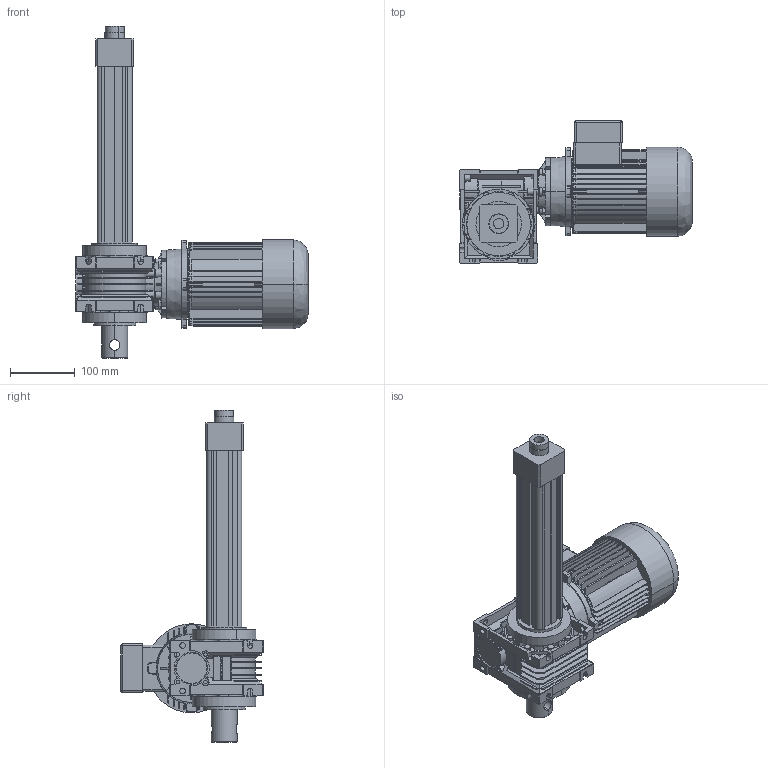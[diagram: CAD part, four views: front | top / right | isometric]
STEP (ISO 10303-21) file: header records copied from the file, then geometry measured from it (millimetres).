
FILE_DESCRIPTION (( 'STEP AP214' ), '1' );
FILE_NAME ('Ass RV40 TR C200.STEP', '2016-11-27T05:34:52', ( 'Hubert' ), ( '' ), 'SwSTEP 2.0', 'SolidWorks 2014', '' );
FILE_SCHEMA (( 'AUTOMOTIVE_DESIGN' ));
Length unit declared in the file: millimetre
Products named in the file (14): _VB 050-14 (14)_1; _050-25 (92)_1; _Gear unit 50_1; Ass RV40 TR C200; PAAV 40 dif; Profilé RV40 TR C200; PARR RV40 dif; Tube RV40 TR C200; Vis RV40 TR C200; Chape AR RV 40; NMRV050B14_Mot 71; _T_71_B_4_B14_F_230-400-50.3d; _ALBERO_T07114X30NO_3; _50-71 B14_1
Assembly tree (13 placements, depth 3):
  Ass RV40 TR C200
    NMRV050B14_Mot 71
      _Gear unit 50_1
      _050-25 (92)_1
      _VB 050-14 (14)_1
      _50-71 B14_1
      _ALBERO_T07114X30NO_3
      _T_71_B_4_B14_F_230-400-50.3d
    Chape AR RV 40
    Vis RV40 TR C200
    Tube RV40 TR C200
    PARR RV40 dif
    Profilé RV40 TR C200
    PAAV 40 dif
Bounding box: 358 x 219 x 511 mm (x, y, z)
Volume: 4686594.4 mm3; surface area: 732802.8 mm2
Topology: 12 solids, 18 shells, 1813 faces, 4891 edges, 3171 vertices
Faces by surface type: plane 932, cylinder 604, cone 176, bspline 97, torus 4
Entity records: 80441 total; most frequent: CARTESIAN_POINT 15813, ORIENTED_EDGE 9722, DIRECTION 9306, EDGE_CURVE 4861, AXIS2_PLACEMENT_3D 3317, VERTEX_POINT 3171, LINE 2672, VECTOR 2672
